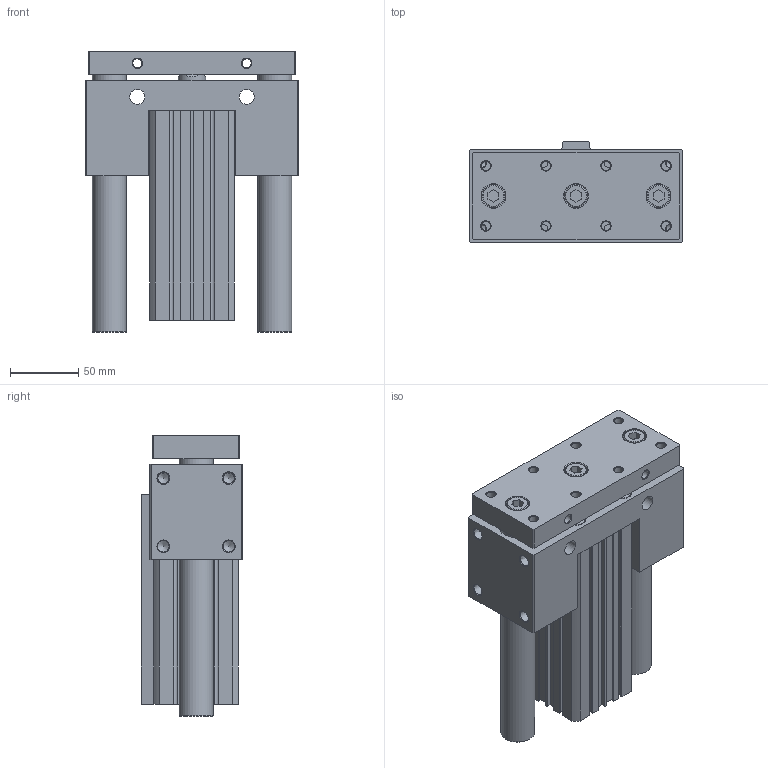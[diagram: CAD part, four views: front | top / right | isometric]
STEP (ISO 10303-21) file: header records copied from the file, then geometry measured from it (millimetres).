
FILE_DESCRIPTION((''),'2;1');
FILE_NAME('I:\3D電子目錄\氣缸\JCB\JCB\JCB50-S\JCB50x115-S.stp','2007-08-30T16:36:08',('Administrator'),(''),'Autodesk Inventor 11','Autodesk Inventor 11','');
FILE_SCHEMA(('AUTOMOTIVE_DESIGN { 1 0 10303 214 1 1 1 1 }'));
Length unit declared in the file: millimetre
Products named in the file (1): JCB50
Bounding box: 156 x 74 x 205.5 mm (x, y, z)
Volume: 1294136.3 mm3; surface area: 221254 mm2
Topology: 3 solids, 3 shells, 328 faces, 786 edges, 510 vertices
Faces by surface type: plane 190, cylinder 58, cone 45, bspline 31, torus 4
Full cylindrical faces by diameter (mm): 2.7 x2, 6.8 x4, 8.376 x4, 11 x8, 13 x4, 14 x4, 16 x3, 17.5 x3, 20 x1, 21 x1, 25 x2, 28 x2, 37 x1, 38 x1, 52 x4, 55 x2
Entity records: 9390 total; most frequent: CARTESIAN_POINT 2294, DIRECTION 1434, ORIENTED_EDGE 1264, EDGE_CURVE 632, EDGE_LOOP 536, AXIS2_PLACEMENT_3D 512, VERTEX_POINT 480, VECTOR 410
